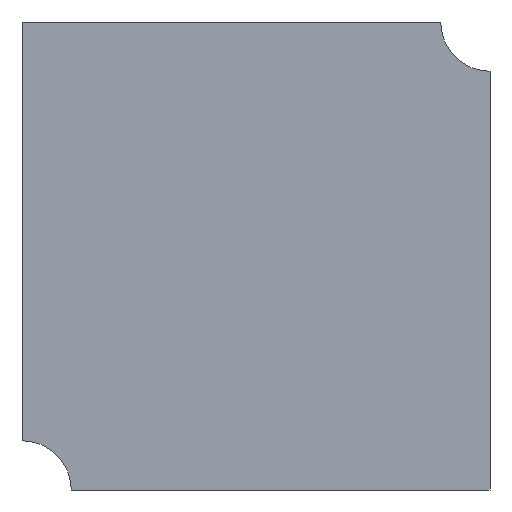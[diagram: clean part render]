
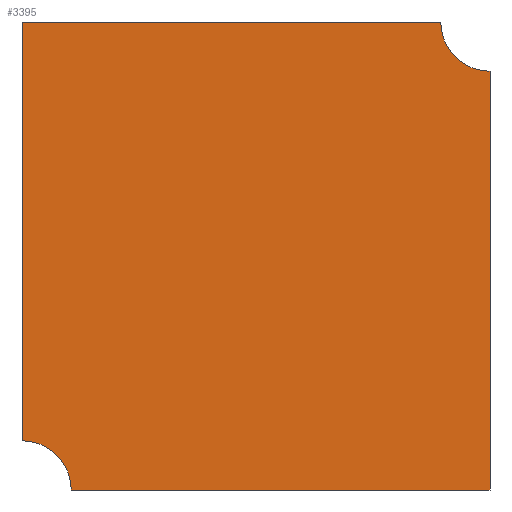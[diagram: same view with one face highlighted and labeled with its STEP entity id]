
A CAD part, front view. The second image highlights one B-rep face of the part: STEP entity #3395.
In plain terms, the highlighted planar face has unit normal (0, -1, 0).
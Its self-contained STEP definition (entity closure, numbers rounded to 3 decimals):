
#12 = CARTESIAN_POINT ( 'NONE',  ( 9.5, 0., 9.5 ) ) ;
#24 = FACE_OUTER_BOUND ( 'NONE', #1550, .T. ) ;
#68 = CARTESIAN_POINT ( 'NONE',  ( -9.5, 0., -7.5 ) ) ;
#86 = LINE ( 'NONE', #342, #2714 ) ;
#244 = LINE ( 'NONE', #2364, #1381 ) ;
#284 = AXIS2_PLACEMENT_3D ( 'NONE', #2572, #474, #1225 ) ;
#326 = VECTOR ( 'NONE', #2580, 1000. ) ;
#342 = CARTESIAN_POINT ( 'NONE',  ( -9.5, 0., -7.5 ) ) ;
#379 = VERTEX_POINT ( 'NONE', #68 ) ;
#471 = EDGE_CURVE ( 'NONE', #379, #1841, #86, .T. ) ;
#474 = DIRECTION ( 'NONE',  ( 0., -1., 0. ) ) ;
#541 = EDGE_CURVE ( 'NONE', #1533, #379, #1969, .T. ) ;
#604 = DIRECTION ( 'NONE',  ( 0., -1., 0. ) ) ;
#611 = DIRECTION ( 'NONE',  ( 0., 0., 1. ) ) ;
#647 = ORIENTED_EDGE ( 'NONE', *, *, #2412, .F. ) ;
#747 = CARTESIAN_POINT ( 'NONE',  ( 9.5, 0., -9.5 ) ) ;
#811 = LINE ( 'NONE', #2793, #2181 ) ;
#1225 = DIRECTION ( 'NONE',  ( 0., 0., 1. ) ) ;
#1236 = CARTESIAN_POINT ( 'NONE',  ( -9.5, 0., 9.5 ) ) ;
#1256 = DIRECTION ( 'NONE',  ( 0., 0., -1. ) ) ;
#1318 = CARTESIAN_POINT ( 'NONE',  ( 9.5, 0., 9.5 ) ) ;
#1355 = AXIS2_PLACEMENT_3D ( 'NONE', #1318, #2392, #3458 ) ;
#1381 = VECTOR ( 'NONE', #1256, 1000. ) ;
#1417 = ORIENTED_EDGE ( 'NONE', *, *, #3479, .F. ) ;
#1496 = CARTESIAN_POINT ( 'NONE',  ( -7.5, 0., -9.5 ) ) ;
#1533 = VERTEX_POINT ( 'NONE', #3388 ) ;
#1539 = ORIENTED_EDGE ( 'NONE', *, *, #471, .F. ) ;
#1550 = EDGE_LOOP ( 'NONE', ( #2286, #1539, #3199, #1417, #647, #3171 ) ) ;
#1645 = PLANE ( 'NONE',  #2075 ) ;
#1841 = VERTEX_POINT ( 'NONE', #1236 ) ;
#1957 = DIRECTION ( 'NONE',  ( 1., 0., 0. ) ) ;
#1969 = CIRCLE ( 'NONE', #284, 2. ) ;
#2075 = AXIS2_PLACEMENT_3D ( 'NONE', #12, #604, #2728 ) ;
#2126 = CARTESIAN_POINT ( 'NONE',  ( 7.5, 0., 9.5 ) ) ;
#2181 = VECTOR ( 'NONE', #1957, 1000. ) ;
#2281 = CIRCLE ( 'NONE', #1355, 2. ) ;
#2286 = ORIENTED_EDGE ( 'NONE', *, *, #2927, .F. ) ;
#2364 = CARTESIAN_POINT ( 'NONE',  ( 9.5, 0., -9.5 ) ) ;
#2392 = DIRECTION ( 'NONE',  ( 0., -1., 0. ) ) ;
#2412 = EDGE_CURVE ( 'NONE', #2454, #3175, #244, .T. ) ;
#2454 = VERTEX_POINT ( 'NONE', #3290 ) ;
#2572 = CARTESIAN_POINT ( 'NONE',  ( -9.5, 0., -9.5 ) ) ;
#2580 = DIRECTION ( 'NONE',  ( -1., 0., 0. ) ) ;
#2714 = VECTOR ( 'NONE', #611, 1000. ) ;
#2728 = DIRECTION ( 'NONE',  ( 0., 0., -1. ) ) ;
#2766 = VERTEX_POINT ( 'NONE', #2126 ) ;
#2793 = CARTESIAN_POINT ( 'NONE',  ( -9.5, 0., 9.5 ) ) ;
#2927 = EDGE_CURVE ( 'NONE', #1841, #2766, #811, .T. ) ;
#3171 = ORIENTED_EDGE ( 'NONE', *, *, #3281, .F. ) ;
#3175 = VERTEX_POINT ( 'NONE', #747 ) ;
#3199 = ORIENTED_EDGE ( 'NONE', *, *, #541, .F. ) ;
#3281 = EDGE_CURVE ( 'NONE', #2766, #2454, #2281, .T. ) ;
#3290 = CARTESIAN_POINT ( 'NONE',  ( 9.5, 0., 7.5 ) ) ;
#3383 = LINE ( 'NONE', #1496, #326 ) ;
#3388 = CARTESIAN_POINT ( 'NONE',  ( -7.5, 0., -9.5 ) ) ;
#3395 = ADVANCED_FACE ( 'NONE', ( #24 ), #1645, .T. ) ;
#3458 = DIRECTION ( 'NONE',  ( 0., 0., -1. ) ) ;
#3479 = EDGE_CURVE ( 'NONE', #3175, #1533, #3383, .T. ) ;
